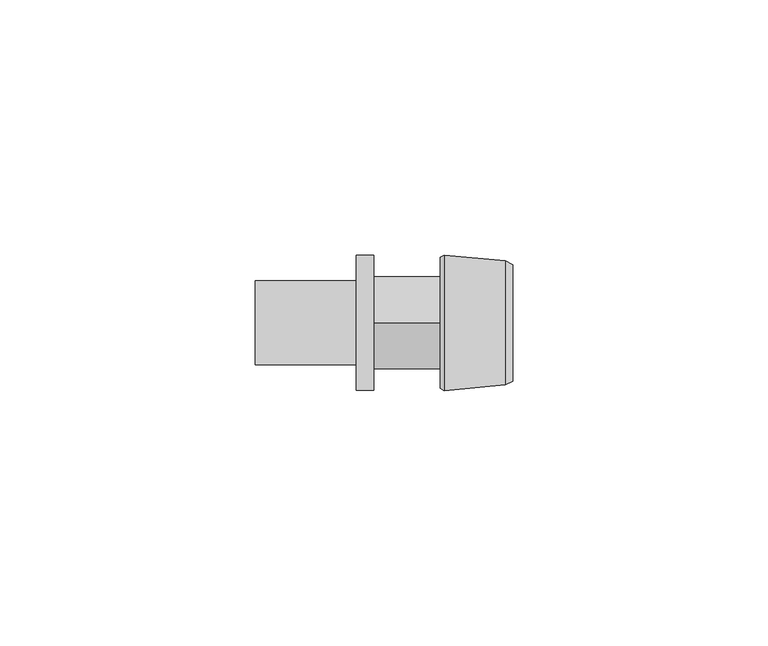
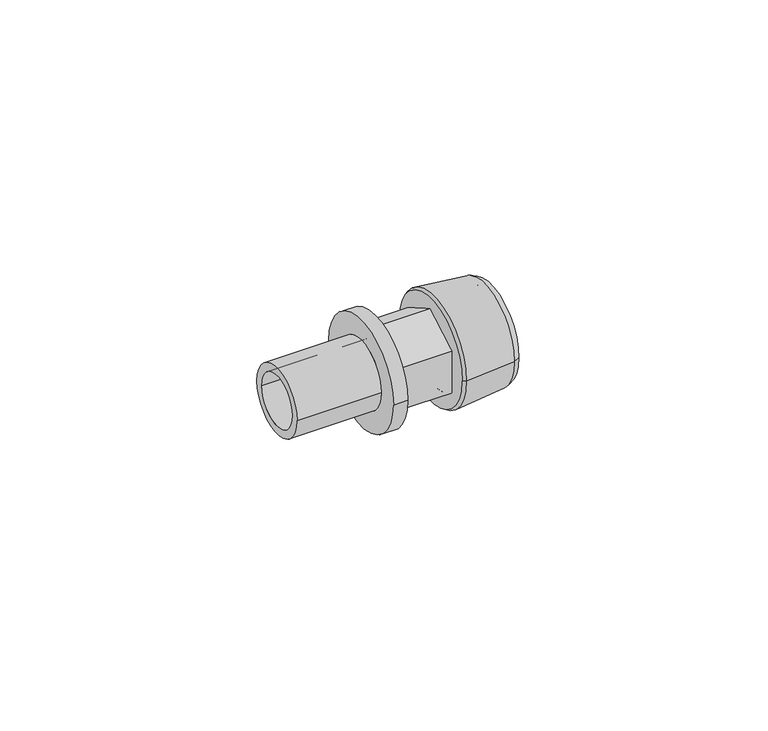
"""IFC4 building model written with IfcOpenShell, lengths in millimetres: pipe fitting geometry, REHAU_RAUTITAN_Adaptor_RX+, with external thread : REHAU_RAUTITAN_Adaptor_RX+, with external thread."""

from ifc_helpers import new_model, si_unit, point, frame, origin, origin_2d, place, context, project, spatial, polyline, circle_curve, trimmed, segment, composite_curve, outline, extrude, source, transform, mapped, element, save
from ifc_brep_helpers import plane_surface, cylinder_surface, revolved_surface, advanced_brep


def pipe_fitting_d5a7e158(model_context):
    return source(origin(), model_context, "Body", "SolidModel", [
        advanced_brep(
        [(14.2132803, 9.5, 0.0), (14.2132803, -9.5, 0.0), (27.31, -9.5, 0.0), (27.31, 9.5, 0.0), (13.11, 8.3967197, 0.0), (13.11, -8.3967197, 0.0), (13.8506902, 13.27, 0.0), (13.8506902, -13.27, 0.0), (13.11, -12.845, 0.0), (13.11, 12.845, 0.0), (25.8100007, 12.16, 0.0), (25.8100007, -12.16, 0.0), (27.31, 11.425, 0.0), (27.31, -11.425, 0.0)],
        [
            (0, 1, circle_curve(frame((14.2132803, 0.0, 0.0), z_axis=(-1.0, 0.0, 0.0), x_axis=(0.0, -1.0, 0.0)), 9.5)),
            (1, 2),
            (2, 3, circle_curve(frame((27.31, 0.0, 0.0), z_axis=(1.0, 0.0, 0.0), x_axis=(0.0, -1.0, 0.0)), 9.5)),
            (3, 0),
            (4, 5, circle_curve(frame((13.11, 0.0, 0.0), z_axis=(-1.0, 0.0, 0.0), x_axis=(0.0, -1.0, 0.0)), 8.3967197)),
            (5, 1),
            (0, 4),
            (6, 7, circle_curve(frame((13.8506902, 0.0, 0.0), z_axis=(-1.0, 0.0, 0.0), x_axis=(0.0, -1.0, 0.0)), 13.27)),
            (7, 8),
            (8, 9, circle_curve(frame((13.11, 0.0, 0.0), z_axis=(1.0, 0.0, 0.0), x_axis=(0.0, -1.0, 0.0)), 12.845)),
            (9, 6),
            (10, 11, circle_curve(frame((25.8100007, 0.0, 0.0), z_axis=(-1.0, 0.0, 0.0), x_axis=(0.0, -1.0, 0.0)), 12.16)),
            (11, 7),
            (6, 10),
            (12, 13, circle_curve(frame((27.31, 0.0, 0.0), z_axis=(-1.0, 0.0, 0.0), x_axis=(0.0, -1.0, 0.0)), 11.425)),
            (13, 11),
            (10, 12),
            (1, 0, circle_curve(frame((14.2132803, 0.0, 0.0), z_axis=(-1.0, 0.0, 0.0), x_axis=(0.0, 1.0, 0.0)), 9.5)),
            (3, 2, circle_curve(frame((27.31, 0.0, 0.0), z_axis=(1.0, 0.0, 0.0), x_axis=(0.0, 1.0, 0.0)), 9.5)),
            (5, 4, circle_curve(frame((13.11, 0.0, 0.0), z_axis=(-1.0, 0.0, 0.0), x_axis=(0.0, 1.0, 0.0)), 8.3967197)),
            (8, 9, circle_curve(frame((13.11, 0.0, 0.0), z_axis=(-1.0, 0.0, 0.0), x_axis=(0.0, 1.0, 0.0)), 12.845)),
            (7, 6, circle_curve(frame((13.8506902, 0.0, 0.0), z_axis=(-1.0, 0.0, 0.0), x_axis=(0.0, 1.0, 0.0)), 13.27)),
            (11, 10, circle_curve(frame((25.8100007, 0.0, 0.0), z_axis=(-1.0, 0.0, 0.0), x_axis=(0.0, 1.0, 0.0)), 12.16)),
            (13, 12, circle_curve(frame((27.31, 0.0, 0.0), z_axis=(-1.0, 0.0, 0.0), x_axis=(0.0, 1.0, 0.0)), 11.425)),
        ],
        [
            revolved_surface(polyline([(27.31, -9.5, 0.0), (14.2132803, -9.5, 0.0)]), (0.0, 0.0, 0.0), (1.0, 0.0, 0.0)),
            revolved_surface(polyline([(14.2132803, -9.5, 0.0), (13.11, -8.3967197, 0.0)]), (0.0, 0.0, 0.0), (1.0, 0.0, 0.0)),
            revolved_surface(polyline([(13.11, -12.845, 0.0), (13.8506902, -13.27, 0.0)]), (0.0, 0.0, 0.0), (1.0, 0.0, 0.0)),
            revolved_surface(polyline([(13.8506902, -13.27, 0.0), (25.8100007, -12.16, 0.0)]), (0.0, 0.0, 0.0), (1.0, 0.0, 0.0)),
            revolved_surface(polyline([(25.8100007, -12.16, 0.0), (27.31, -11.425, 0.0)]), (0.0, 0.0, 0.0), (1.0, 0.0, 0.0)),
            revolved_surface(polyline([(27.31, 9.5, 0.0), (14.2132803, 9.5, 0.0)]), (0.0, 0.0, 0.0), (1.0, 0.0, 0.0)),
            revolved_surface(polyline([(14.2132803, 9.5, 0.0), (13.11, 8.3967197, 0.0)]), (0.0, 0.0, 0.0), (1.0, 0.0, 0.0)),
            plane_surface(frame((13.11, 0.0, 0.0), z_axis=(-1.0, 0.0, 0.0), x_axis=(0.0, 1.0, 0.0))),
            revolved_surface(polyline([(13.11, 12.845, 0.0), (13.8506902, 13.27, 0.0)]), (0.0, 0.0, 0.0), (1.0, 0.0, 0.0)),
            revolved_surface(polyline([(13.8506902, 13.27, 0.0), (25.8100007, 12.16, 0.0)]), (0.0, 0.0, 0.0), (1.0, 0.0, 0.0)),
            revolved_surface(polyline([(25.8100007, 12.16, 0.0), (27.31, 11.425, 0.0)]), (0.0, 0.0, 0.0), (1.0, 0.0, 0.0)),
            plane_surface(frame((27.31, 0.0, 0.0), z_axis=(1.0, 0.0, 0.0), x_axis=(0.0, 1.0, 0.0))),
        ],
        [
            (0, [[1, 2, 3, 4]]),
            (1, [[5, 6, -1, 7]]),
            (2, [[8, 9, 10, 11]]),
            (3, [[12, 13, -8, 14]]),
            (4, [[15, 16, -12, 17]]),
            (5, [[18, -4, 19, -2]]),
            (6, [[20, -7, -18, -6]]),
            (7, [[21, -10], [-20, -5]]),
            (8, [[22, -11, -21, -9]]),
            (9, [[23, -14, -22, -13]]),
            (10, [[24, -17, -23, -16]]),
            (11, [[-24, -15], [-19, -3]]),
        ],
    ),
        extrude(outline(polyline([(0.0, -10.3923048), (-9.0, -5.1961524), (-9.0, 5.1961524), (0.0, 10.3923048), (9.0, 5.1961524), (9.0, -5.1961524), (0.0, -10.3923048)]), holes=[composite_curve([segment(trimmed(circle_curve(origin_2d(), 6.25), [point((-6.25, 0.0))], [point((6.25, 0.0))], True, "CARTESIAN"), True, "CONTINUOUS"), segment(trimmed(circle_curve(origin_2d(), 6.25), [point((6.25, 0.0))], [point((-6.25, 0.0))], True, "CARTESIAN"), True, "CONTINUOUS")], self_intersect=False)]), frame((0.0, 0.0, 0.0), z_axis=(1.0, 0.0, 0.0), x_axis=(0.0, 1.0, 0.0)), (0.0, 0.0, 1.0), 13.11),
        advanced_brep(
        [(-23.2, 6.25, 0.0), (-23.2, -6.25, 0.0), (0.0, -6.25, 0.0), (0.0, 6.25, 0.0), (-3.35, 8.225, 0.0), (-3.35, -8.225, 0.0), (-23.2, -8.225, 0.0), (-23.2, 8.225, 0.0), (0.0, 13.25, 0.0), (0.0, -13.25, 0.0), (-3.35, -13.25, 0.0), (-3.35, 13.25, 0.0)],
        [
            (0, 1, circle_curve(frame((-23.2, 0.0, 0.0), z_axis=(-1.0, 0.0, 0.0), x_axis=(0.0, -1.0, 0.0)), 6.25)),
            (1, 2),
            (2, 3, circle_curve(frame((0.0, 0.0, 0.0), z_axis=(1.0, 0.0, 0.0), x_axis=(0.0, -1.0, 0.0)), 6.25)),
            (3, 0),
            (4, 5, circle_curve(frame((-3.35, 0.0, 0.0), z_axis=(-1.0, 0.0, 0.0), x_axis=(0.0, -1.0, 0.0)), 8.225)),
            (5, 6),
            (6, 7, circle_curve(frame((-23.2, 0.0, 0.0), z_axis=(1.0, 0.0, 0.0), x_axis=(0.0, -1.0, 0.0)), 8.225)),
            (7, 4),
            (8, 9, circle_curve(frame((0.0, 0.0, 0.0), z_axis=(-1.0, 0.0, 0.0), x_axis=(0.0, -1.0, 0.0)), 13.25)),
            (9, 10),
            (10, 11, circle_curve(frame((-3.35, 0.0, 0.0), z_axis=(1.0, 0.0, 0.0), x_axis=(0.0, -1.0, 0.0)), 13.25)),
            (11, 8),
            (8, 9, circle_curve(frame((0.0, 0.0, 0.0), z_axis=(1.0, 0.0, 0.0), x_axis=(0.0, 1.0, 0.0)), 13.25)),
            (2, 3, circle_curve(frame((0.0, 0.0, 0.0), z_axis=(-1.0, 0.0, 0.0), x_axis=(0.0, 1.0, 0.0)), 6.25)),
            (1, 0, circle_curve(frame((-23.2, 0.0, 0.0), z_axis=(-1.0, 0.0, 0.0), x_axis=(0.0, 1.0, 0.0)), 6.25)),
            (6, 7, circle_curve(frame((-23.2, 0.0, 0.0), z_axis=(-1.0, 0.0, 0.0), x_axis=(0.0, 1.0, 0.0)), 8.225)),
            (5, 4, circle_curve(frame((-3.35, 0.0, 0.0), z_axis=(-1.0, 0.0, 0.0), x_axis=(0.0, 1.0, 0.0)), 8.225)),
            (10, 11, circle_curve(frame((-3.35, 0.0, 0.0), z_axis=(-1.0, 0.0, 0.0), x_axis=(0.0, 1.0, 0.0)), 13.25)),
        ],
        [
            revolved_surface(polyline([(0.0, -6.25, 0.0), (-23.2, -6.25, 0.0)]), (0.0, 0.0, 0.0), (1.0, 0.0, 0.0)),
            cylinder_surface(frame((0.0, 0.0, 0.0), z_axis=(1.0, 0.0, 0.0), x_axis=(0.0, -1.0, 0.0)), 8.225),
            cylinder_surface(frame((0.0, 0.0, 0.0), z_axis=(1.0, 0.0, 0.0), x_axis=(0.0, -1.0, 0.0)), 13.25),
            plane_surface(frame((0.0, 0.0, 0.0), z_axis=(1.0, 0.0, 0.0), x_axis=(0.0, 1.0, 0.0))),
            revolved_surface(polyline([(0.0, 6.25, 0.0), (-23.2, 6.25, 0.0)]), (0.0, 0.0, 0.0), (1.0, 0.0, 0.0)),
            plane_surface(frame((-23.2, 0.0, 0.0), z_axis=(-1.0, 0.0, 0.0), x_axis=(0.0, 1.0, 0.0))),
            cylinder_surface(frame((0.0, 0.0, 0.0), z_axis=(1.0, 0.0, 0.0), x_axis=(0.0, 1.0, 0.0)), 8.225),
            plane_surface(frame((-3.35, 0.0, 0.0), z_axis=(-1.0, 0.0, 0.0), x_axis=(0.0, 1.0, 0.0))),
            cylinder_surface(frame((0.0, 0.0, 0.0), z_axis=(1.0, 0.0, 0.0), x_axis=(0.0, 1.0, 0.0)), 13.25),
        ],
        [
            (0, [[1, 2, 3, 4]]),
            (1, [[5, 6, 7, 8]]),
            (2, [[9, 10, 11, 12]]),
            (3, [[13, -9], [14, -3]]),
            (4, [[15, -4, -14, -2]]),
            (5, [[16, -7], [-15, -1]]),
            (6, [[17, -8, -16, -6]]),
            (7, [[18, -11], [-17, -5]]),
            (8, [[-13, -12, -18, -10]]),
        ],
    ),
    ])


if __name__ == "__main__":
    model = new_model("IFC4")
    model_context = context("Model", 3, world=origin())
    ifc_project = project(units=[si_unit("LENGTHUNIT", "METRE", prefix="MILLI")], contexts=[model_context])
    site = spatial("IfcSite", under=ifc_project)
    building = spatial("IfcBuilding", under=site)
    placement = place(None, origin())
    pipe_fitting_shape = pipe_fitting_d5a7e158(model_context)
    element("IfcPipeFitting", 1, ObjectType="REHAU_RAUTITAN_Adaptor_RX+, with external thread : REHAU_RAUTITAN_Adaptor_RX+, with external thread", at=placement, inside=building, context=model_context, shape_type="MappedRepresentation", body=[
        mapped(pipe_fitting_shape, transform((0.0, 0.0, 0.0), x_axis=(1.0, 0.0, 0.0), y_axis=(0.0, 1.0, 0.0), z_axis=(0.0, 0.0, 1.0))),
    ])
    save(model, "model.ifc")
